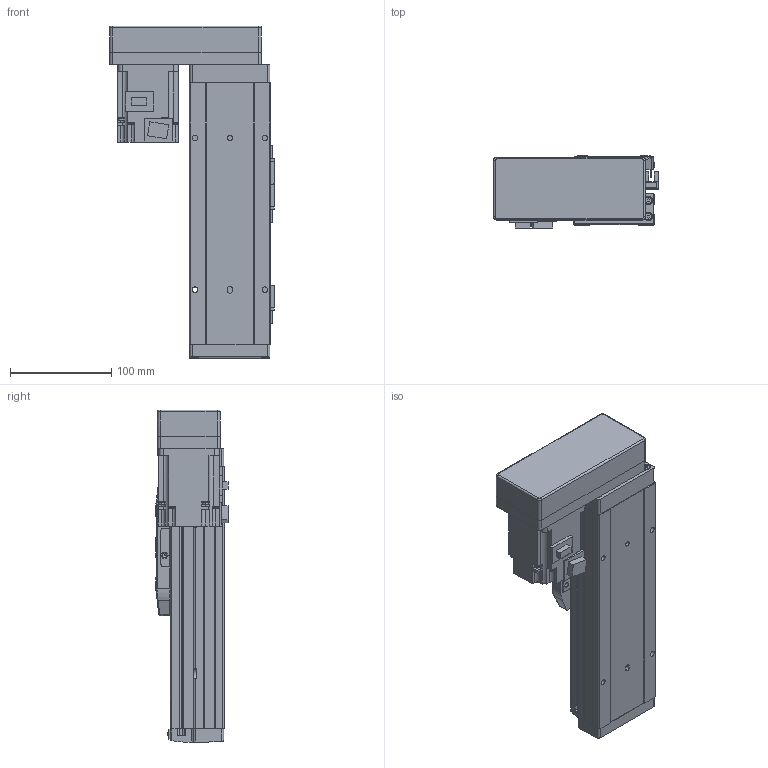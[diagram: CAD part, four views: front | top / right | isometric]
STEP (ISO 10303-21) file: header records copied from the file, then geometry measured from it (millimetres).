
FILE_DESCRIPTION (( 'STEP AP214' ), '1' );
FILE_NAME ('GSH8-100-BR-M20-1.step', '2025-01-07T06:09:37', ( '' ), ( '' ), 'SwSTEP 2.0', 'SolidWorks 2012', '' );
FILE_SCHEMA (( 'AUTOMOTIVE_DESIGN' ));
Length unit declared in the file: millimetre
Products named in the file (5): GSH8-100-BR-M20-1; GSH8-BL-008; HG-KR23_200W_Motor; GSH8-BL-011-100-M20; GSH8-GY-004
Assembly tree (4 placements, depth 2):
  GSH8-100-BR-M20-1
    GSH8-BL-011-100-M20
    GSH8-GY-004
    GSH8-BL-008
    HG-KR23_200W_Motor
Bounding box: 163 x 71.3 x 328.2 mm (x, y, z)
Volume: 1335224.8 mm3; surface area: 271128.7 mm2
Topology: 4 solids, 8 shells, 1064 faces, 2771 edges, 1779 vertices
Faces by surface type: plane 611, cylinder 357, torus 42, cone 26, bspline 24, sphere 4
Entity records: 41901 total; most frequent: CARTESIAN_POINT 9563, DIRECTION 5617, ORIENTED_EDGE 5526, EDGE_CURVE 2763, AXIS2_PLACEMENT_3D 1885, VECTOR 1847, LINE 1847, VERTEX_POINT 1775
